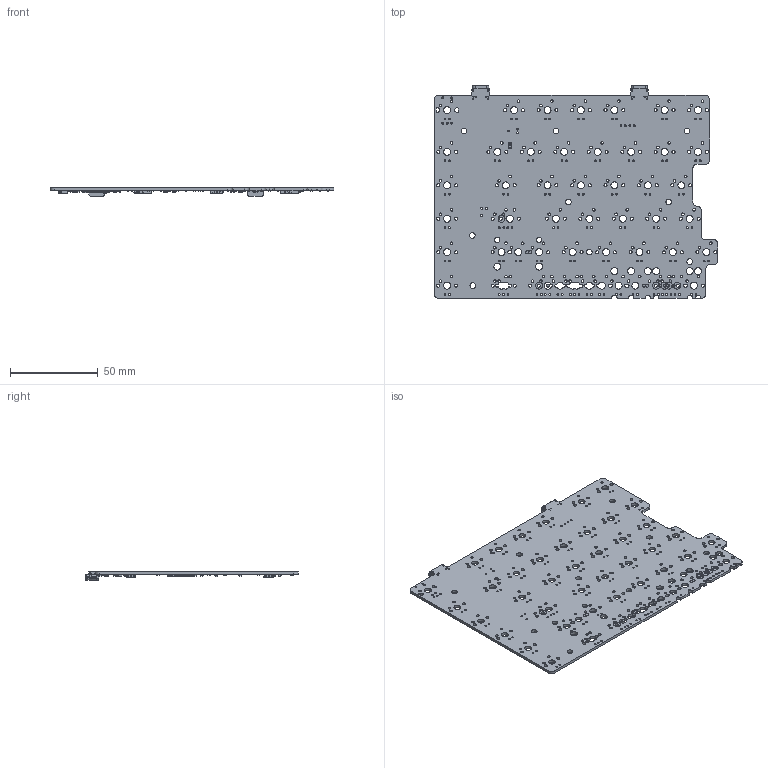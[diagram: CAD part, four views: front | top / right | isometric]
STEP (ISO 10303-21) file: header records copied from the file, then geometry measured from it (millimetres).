
FILE_DESCRIPTION(('KiCad electronic assembly'),'2;1');
FILE_NAME('kbo-5000-left.step','2021-03-11T21:22:45',('Pcbnew'),('Kicad' ),'Open CASCADE STEP processor 7.5','KiCad to STEP converter', 'Unknown');
FILE_SCHEMA(('AUTOMOTIVE_DESIGN { 1 0 10303 214 1 1 1 1 }'));
Length unit declared in the file: millimetre
Products named in the file (28): Open CASCADE STEP translator 7.5 1; C_0603_1608Metric; SOLID; D_SOD-123F; R_0805_2012Metric; D_0805_2012Metric; SOT-23; R_0603_1608Metric; SW_SPST_TL3342; SOT-143; HRO  TYPE-C-31-M-12; TQFP-44_10x10mm_P0.8mm; LED_RGB_5050-6; SOT-363_SC-70-6; Crystal_SMD_3225-4Pin_3.2x2.5mm; COMPOUND
Assembly tree (113 placements, depth 3):
  Open CASCADE STEP translator 7.5 1
    C_0603_1608Metric  x15
      SOLID
    D_SOD-123F
      SOLID
    R_0805_2012Metric
      SOLID
    D_0805_2012Metric
      SOLID
    SOT-23
      SOLID
    R_0603_1608Metric  x54
      SOLID
    SW_SPST_TL3342
      SOLID
    SOT-143
      SOLID
    HRO  TYPE-C-31-M-12  x2
      SOLID
    TQFP-44_10x10mm_P0.8mm
      SOLID
    LED_RGB_5050-6  x8
      SOLID
    SOT-363_SC-70-6  x12
      SOLID
    Crystal_SMD_3225-4Pin_3.2x2.5mm
      SOLID
    COMPOUND
Bounding box: 161.63 x 120.96 x 4.86 mm (x, y, z)
Volume: 27164.6 mm3; surface area: 40358.1 mm2
Topology: 102 solids, 103 shells, 6102 faces, 16431 edges, 10505 vertices
Faces by surface type: bspline 5499, cylinder 501, plane 102
Full cylindrical faces by diameter (mm): 0.65 x10, 0.986 x2, 0.988 x1, 0.991 x105, 1 x9, 1.04 x1, 1.092 x3, 1.47 x108, 1.75 x80, 3.048 x2, 3.2 x9, 3.988 x48
Entity records: 154304 total; most frequent: CARTESIAN_POINT 50699, ORIENTED_EDGE 12068, PCURVE 12068, DEFINITIONAL_REPRESENTATION 12068, B_SPLINE_CURVE_WITH_KNOTS 11359, DIRECTION 7797, EDGE_CURVE 6034, SURFACE_CURVE 5647
